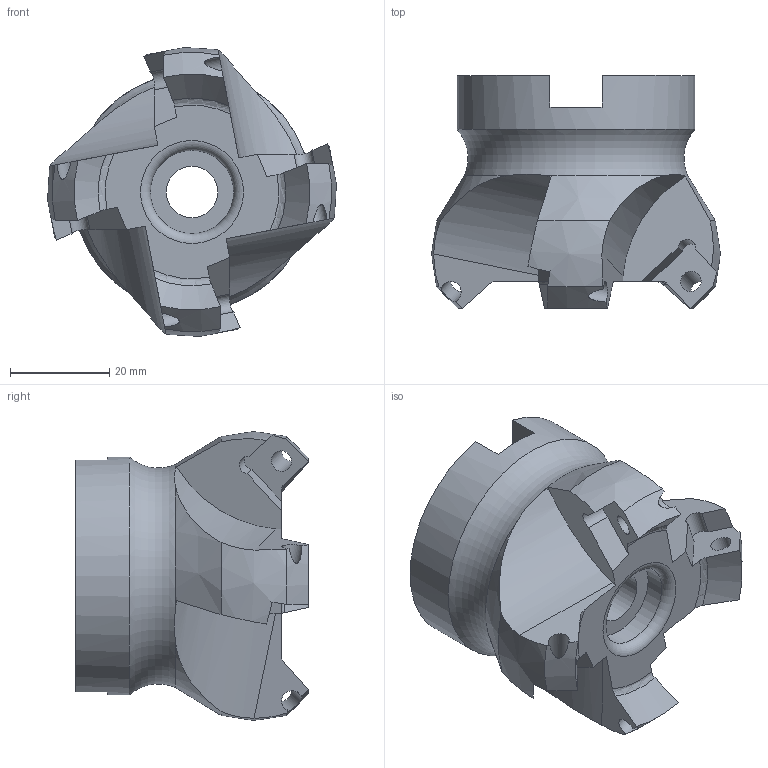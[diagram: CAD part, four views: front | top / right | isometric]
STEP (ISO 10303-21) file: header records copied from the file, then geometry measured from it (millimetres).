
FILE_DESCRIPTION(/* description */ (''),/* implementation_level */ '2;1');
FILE_NAME(/* name */ 'Z:\Проектный отдел\Влад\Фрезы\Km12 50-22.stp',/* time_stamp */ '2023-03-21T11:15:38+03:00',/* author */ ('инженер'),/* organization */ (''),/* preprocessor_version */ 'ST-DEVELOPER v18',/* originating_system */ 'Autodesk Inventor 2020',/* authorisation */ '');
FILE_SCHEMA (('AUTOMOTIVE_DESIGN { 1 0 10303 214 3 1 1 }'));
Length unit declared in the file: millimetre
Products named in the file (1): Km12 50-22
Bounding box: 58.33 x 47 x 58.33 mm (x, y, z)
Volume: 54236.2 mm3; surface area: 14057.7 mm2
Topology: 1 solids, 1 shells, 75 faces, 235 edges, 159 vertices
Faces by surface type: plane 35, cylinder 16, cone 14, torus 6, bspline 4
Full cylindrical faces by diameter (mm): 4.2 x4, 10.4 x1, 16.8 x1, 22 x1, 48 x1
Entity records: 2913 total; most frequent: CARTESIAN_POINT 850, ORIENTED_EDGE 470, DIRECTION 398, EDGE_CURVE 235, VERTEX_POINT 159, AXIS2_PLACEMENT_3D 159, EDGE_LOOP 82, LINE 80
